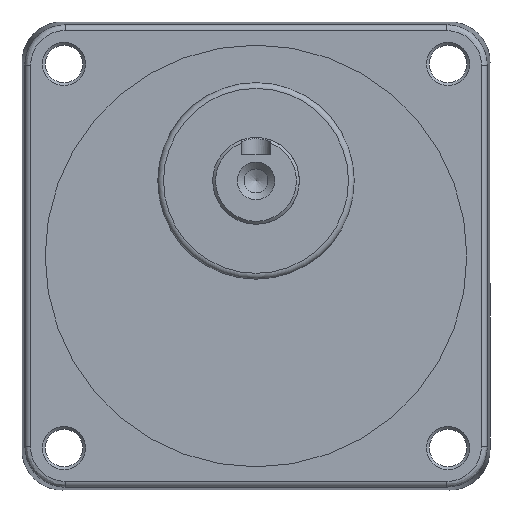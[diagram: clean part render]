
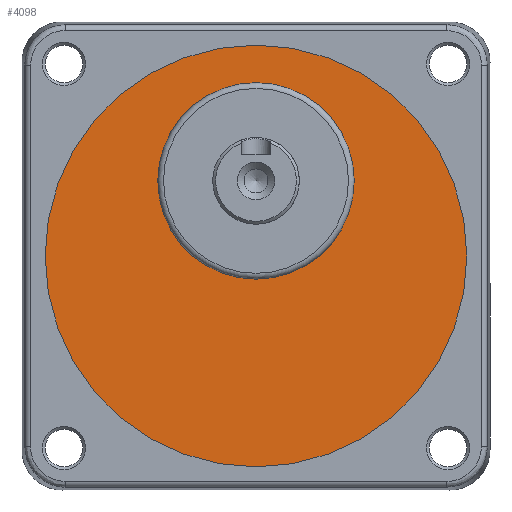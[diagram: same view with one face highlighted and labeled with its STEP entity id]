
A CAD part, front view. The second image highlights one B-rep face of the part: STEP entity #4098.
In plain terms, the highlighted planar face has unit normal (0, -1, 0).
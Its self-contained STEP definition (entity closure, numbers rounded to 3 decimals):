
#3437=CARTESIAN_POINT('',(17.0,-39.5,13.));
#3438=VERTEX_POINT('',#3437);
#3439=CARTESIAN_POINT('',(0.,-39.5,13.0));
#3440=DIRECTION('',(0.0,1.0,0.0));
#3441=DIRECTION('',(-1.0,0.0,0.0));
#3442=AXIS2_PLACEMENT_3D('',#3439,#3440,#3441);
#3443=CIRCLE('',#3442,17.0);
#3444=EDGE_CURVE('',#3438,#3438,#3443,.T.);
#4072=CARTESIAN_POINT('',(36.5,-39.5,0.));
#4073=VERTEX_POINT('',#4072);
#4074=CARTESIAN_POINT('',(0.0,-39.5,0.0));
#4075=DIRECTION('',(0.0,-1.0,0.0));
#4076=DIRECTION('',(-1.0,0.0,0.0));
#4077=AXIS2_PLACEMENT_3D('',#4074,#4075,#4076);
#4078=CIRCLE('',#4077,36.5);
#4079=EDGE_CURVE('',#4073,#4073,#4078,.T.);
#4087=CARTESIAN_POINT('',(0.0,-39.5,0.0));
#4088=DIRECTION('',(0.0,1.0,0.0));
#4089=DIRECTION('',(0.0,0.0,1.0));
#4090=AXIS2_PLACEMENT_3D('',#4087,#4088,#4089);
#4091=PLANE('',#4090);
#4092=ORIENTED_EDGE('',*,*,#4079,.T.);
#4093=EDGE_LOOP('',(#4092));
#4094=FACE_OUTER_BOUND('',#4093,.T.);
#4095=ORIENTED_EDGE('',*,*,#3444,.T.);
#4096=EDGE_LOOP('',(#4095));
#4097=FACE_BOUND('',#4096,.T.);
#4098=ADVANCED_FACE('',(#4094,#4097),#4091,.F.);
